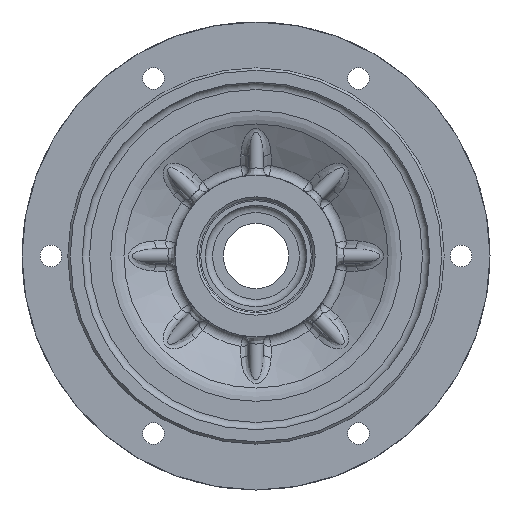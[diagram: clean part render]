
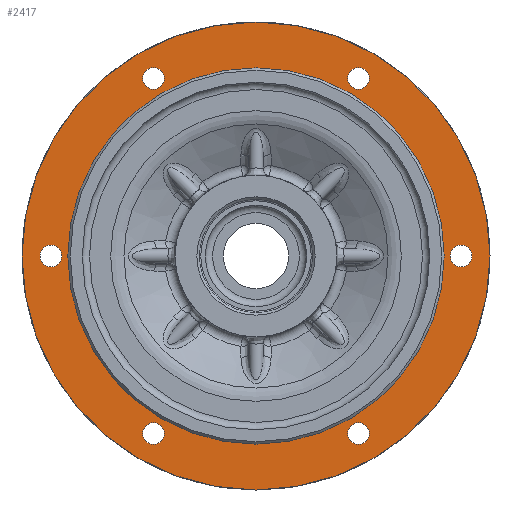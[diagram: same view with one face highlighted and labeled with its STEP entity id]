
A CAD part, left-side view. The second image highlights one B-rep face of the part: STEP entity #2417.
In plain terms, the highlighted planar face has unit normal (-1, 0, 0).
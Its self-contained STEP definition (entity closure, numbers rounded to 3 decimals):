
#140=FACE_BOUND('',#644,.T.);
#141=FACE_BOUND('',#645,.T.);
#142=FACE_BOUND('',#646,.T.);
#143=FACE_BOUND('',#647,.T.);
#144=FACE_BOUND('',#648,.T.);
#145=FACE_BOUND('',#649,.T.);
#146=FACE_BOUND('',#650,.T.);
#152=CIRCLE('',#2455,4.5);
#157=CIRCLE('',#2465,4.5);
#162=CIRCLE('',#2475,4.5);
#167=CIRCLE('',#2485,4.5);
#172=CIRCLE('',#2495,4.5);
#188=CIRCLE('',#2518,4.5);
#292=CIRCLE('',#2689,97.);
#304=CIRCLE('',#2710,78.);
#475=FACE_OUTER_BOUND('',#643,.T.);
#643=EDGE_LOOP('',(#2195));
#644=EDGE_LOOP('',(#2196));
#645=EDGE_LOOP('',(#2197));
#646=EDGE_LOOP('',(#2198));
#647=EDGE_LOOP('',(#2199));
#648=EDGE_LOOP('',(#2200));
#649=EDGE_LOOP('',(#2201));
#650=EDGE_LOOP('',(#2202));
#948=VERTEX_POINT('',#3498);
#958=VERTEX_POINT('',#3545);
#968=VERTEX_POINT('',#3592);
#978=VERTEX_POINT('',#3639);
#988=VERTEX_POINT('',#3686);
#1002=VERTEX_POINT('',#3750);
#1124=VERTEX_POINT('',#5678);
#1134=VERTEX_POINT('',#5901);
#1164=EDGE_CURVE('',#948,#948,#152,.T.);
#1178=EDGE_CURVE('',#958,#958,#157,.T.);
#1192=EDGE_CURVE('',#968,#968,#162,.T.);
#1206=EDGE_CURVE('',#978,#978,#167,.T.);
#1220=EDGE_CURVE('',#988,#988,#172,.T.);
#1245=EDGE_CURVE('',#1002,#1002,#188,.T.);
#1459=EDGE_CURVE('',#1124,#1124,#292,.T.);
#1482=EDGE_CURVE('',#1134,#1134,#304,.T.);
#2195=ORIENTED_EDGE('',*,*,#1459,.T.);
#2196=ORIENTED_EDGE('',*,*,#1164,.T.);
#2197=ORIENTED_EDGE('',*,*,#1178,.T.);
#2198=ORIENTED_EDGE('',*,*,#1192,.T.);
#2199=ORIENTED_EDGE('',*,*,#1206,.T.);
#2200=ORIENTED_EDGE('',*,*,#1220,.T.);
#2201=ORIENTED_EDGE('',*,*,#1245,.T.);
#2202=ORIENTED_EDGE('',*,*,#1482,.F.);
#2266=PLANE('',#2734);
#2417=ADVANCED_FACE('',(#475,#140,#141,#142,#143,#144,#145,#146),#2266,
 .T.);
#2455=AXIS2_PLACEMENT_3D('',#3500,#2774,#2775);
#2465=AXIS2_PLACEMENT_3D('',#3547,#2801,#2802);
#2475=AXIS2_PLACEMENT_3D('',#3594,#2828,#2829);
#2485=AXIS2_PLACEMENT_3D('',#3641,#2855,#2856);
#2495=AXIS2_PLACEMENT_3D('',#3688,#2882,#2883);
#2518=AXIS2_PLACEMENT_3D('',#3752,#2935,#2936);
#2689=AXIS2_PLACEMENT_3D('',#5679,#3325,#3326);
#2710=AXIS2_PLACEMENT_3D('',#5903,#3374,#3375);
#2734=AXIS2_PLACEMENT_3D('',#5943,#3426,#3427);
#2774=DIRECTION('center_axis',(1.,0.,0.));
#2775=DIRECTION('ref_axis',(0.,0.866,-0.5));
#2801=DIRECTION('center_axis',(1.,0.,0.));
#2802=DIRECTION('ref_axis',(0.,0.866,0.5));
#2828=DIRECTION('center_axis',(1.,0.,0.));
#2829=DIRECTION('ref_axis',(0.,0.,1.));
#2855=DIRECTION('center_axis',(1.,0.,0.));
#2856=DIRECTION('ref_axis',(0.,-0.866,0.5));
#2882=DIRECTION('center_axis',(1.,0.,0.));
#2883=DIRECTION('ref_axis',(0.,-0.866,-0.5));
#2935=DIRECTION('center_axis',(1.,0.,0.));
#2936=DIRECTION('ref_axis',(0.,0.,-1.));
#3325=DIRECTION('center_axis',(-1.,0.,0.));
#3326=DIRECTION('ref_axis',(0.,0.,1.));
#3374=DIRECTION('center_axis',(-1.,0.,0.));
#3375=DIRECTION('ref_axis',(0.,0.,1.));
#3426=DIRECTION('center_axis',(-1.,0.,0.));
#3427=DIRECTION('ref_axis',(0.,0.,1.));
#3498=CARTESIAN_POINT('',(-30.,38.603,75.862));
#3500=CARTESIAN_POINT('Origin',(-30.,42.5,73.612));
#3545=CARTESIAN_POINT('',(-30.,-46.397,71.362));
#3547=CARTESIAN_POINT('Origin',(-30.,-42.5,73.612));
#3592=CARTESIAN_POINT('',(-30.,-85.,-4.5));
#3594=CARTESIAN_POINT('Origin',(-30.,-85.,0.));
#3639=CARTESIAN_POINT('',(-30.,-38.603,-75.862));
#3641=CARTESIAN_POINT('Origin',(-30.,-42.5,-73.612));
#3686=CARTESIAN_POINT('',(-30.,46.397,-71.362));
#3688=CARTESIAN_POINT('Origin',(-30.,42.5,-73.612));
#3750=CARTESIAN_POINT('',(-30.,85.,4.5));
#3752=CARTESIAN_POINT('Origin',(-30.,85.,0.));
#5678=CARTESIAN_POINT('',(-30.,-97.,0.));
#5679=CARTESIAN_POINT('Origin',(-30.,0.,0.));
#5901=CARTESIAN_POINT('',(-30.,-78.,0.));
#5903=CARTESIAN_POINT('Origin',(-30.,0.,0.));
#5943=CARTESIAN_POINT('Origin',(-30.,78.,0.));
